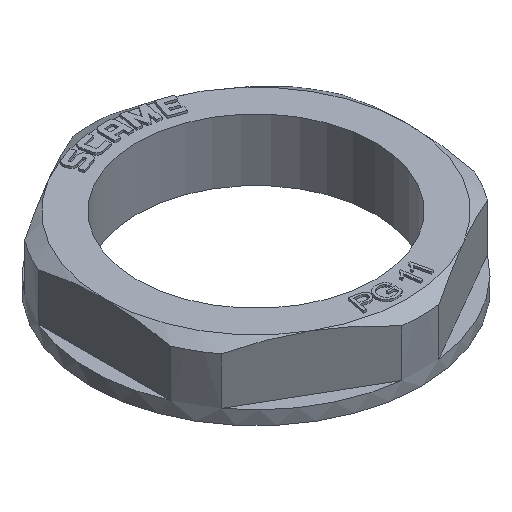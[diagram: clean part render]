
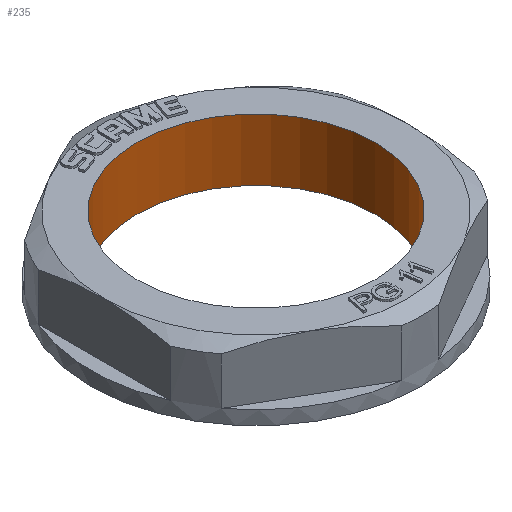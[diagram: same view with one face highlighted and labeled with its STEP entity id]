
A CAD part, isometric view. The second image highlights one B-rep face of the part: STEP entity #235.
In plain terms, the highlighted cylindrical face has radius 8.63 mm (diameter 17.26 mm), a full revolution.
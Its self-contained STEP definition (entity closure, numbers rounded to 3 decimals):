
#217=CYLINDRICAL_SURFACE('',#2889,8.63);
#235=ADVANCED_FACE('',(#1039,#1040),#217,.F.);
#489=CIRCLE('',#2872,8.63);
#504=CIRCLE('',#2888,8.63);
#1039=FACE_BOUND('',#1064,.T.);
#1040=FACE_BOUND('',#1065,.T.);
#1064=EDGE_LOOP('',(#1334));
#1065=EDGE_LOOP('',(#1335));
#1334=ORIENTED_EDGE('',*,*,#2354,.T.);
#1335=ORIENTED_EDGE('',*,*,#2421,.F.);
#2081=VERTEX_POINT('',#3872);
#2148=VERTEX_POINT('',#4036);
#2354=EDGE_CURVE('',#2081,#2081,#489,.T.);
#2421=EDGE_CURVE('',#2148,#2148,#504,.T.);
#2872=AXIS2_PLACEMENT_3D('',#3871,#3056,#3057);
#2888=AXIS2_PLACEMENT_3D('',#4035,#3133,#3134);
#2889=AXIS2_PLACEMENT_3D('',#4037,#3135,#3136);
#3056=DIRECTION('',(0.,0.,1.));
#3057=DIRECTION('',(1.,0.,0.));
#3133=DIRECTION('',(0.,0.,1.));
#3134=DIRECTION('',(-1.,0.,0.));
#3135=DIRECTION('',(0.,0.,1.));
#3136=DIRECTION('',(1.,0.,0.));
#3871=CARTESIAN_POINT('',(0.,0.,0.));
#3872=CARTESIAN_POINT('',(8.63,0.,0.));
#4035=CARTESIAN_POINT('',(0.,0.,-4.5));
#4036=CARTESIAN_POINT('',(-8.63,0.,-4.5));
#4037=CARTESIAN_POINT('',(0.,0.,-5.));
